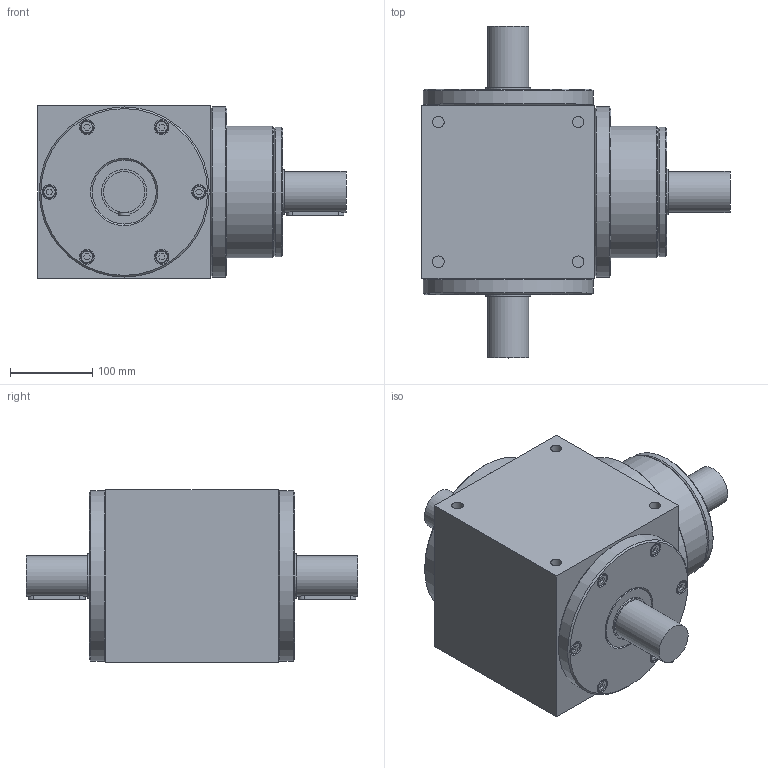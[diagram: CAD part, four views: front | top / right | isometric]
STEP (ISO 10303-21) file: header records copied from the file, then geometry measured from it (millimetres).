
FILE_DESCRIPTION(('STEP AP203'),'1');
FILE_NAME('SMB210.stp','2022-07-27T10:10:19',(' '),(' '),'Spatial InterOp 3D',' ',' ');
FILE_SCHEMA(('CONFIG_CONTROL_DESIGN'));
Length unit declared in the file: millimetre
Products named in the file (35): SMB210; SMB210 HOUSING; 파트2; 파트3; 파트5; 스크루 : Socket - M10.0 x 20.0; 스크루 : Socket - M6.0 x 15.0; 파트34; 파트36; 파트37; 파트39; 파트40; 파트42
Assembly tree (34 placements, depth 2):
  SMB210
    SMB210 HOUSING
    파트2
    파트3
    파트3
    파트5
    스크루 : Socket - M10.0 x 20.0
    스크루 : Socket - M10.0 x 20.0
    스크루 : Socket - M10.0 x 20.0
    스크루 : Socket - M10.0 x 20.0
    스크루 : Socket - M10.0 x 20.0
    스크루 : Socket - M10.0 x 20.0
    스크루 : Socket - M10.0 x 20.0
    스크루 : Socket - M10.0 x 20.0
    스크루 : Socket - M10.0 x 20.0
    스크루 : Socket - M10.0 x 20.0
    스크루 : Socket - M10.0 x 20.0
    스크루 : Socket - M10.0 x 20.0
    스크루 : Socket - M10.0 x 20.0
    스크루 : Socket - M10.0 x 20.0
    스크루 : Socket - M10.0 x 20.0
    스크루 : Socket - M10.0 x 20.0
    스크루 : Socket - M10.0 x 20.0
    스크루 : Socket - M10.0 x 20.0
    스크루 : Socket - M6.0 x 15.0
    스크루 : Socket - M6.0 x 15.0
    스크루 : Socket - M6.0 x 15.0
    스크루 : Socket - M6.0 x 15.0
    파트34
    파트36
    파트37
    파트37
    파트39
    파트40
    파트42
Bounding box: 375 x 404 x 210 mm (x, y, z)
Volume: 7297460.2 mm3; surface area: 951312.3 mm2
Topology: 35 solids, 35 shells, 594 faces, 1180 edges, 786 vertices
Faces by surface type: plane 380, cylinder 158, cone 56
Full cylindrical faces by diameter (mm): 5 x4, 6.5 x4, 8.5 x18, 9.87 x4, 11 x22, 14 x8, 15.835 x18, 18 x18, 50 x3, 55 x6, 60 x1, 65 x1, 68 x2, 70 x1, 78 x8, 90 x1, 92 x1, 100 x2, 110 x3, 120 x2, 150 x3, 153.4 x3, 158 x7, 160 x1, 207 x3
Entity records: 16284 total; most frequent: CARTESIAN_POINT 2691, DIRECTION 2582, ORIENTED_EDGE 1890, AXIS2_PLACEMENT_3D 1017, EDGE_LOOP 987, EDGE_CURVE 945, VERTEX_POINT 752, FACE_OUTER_BOUND 738
